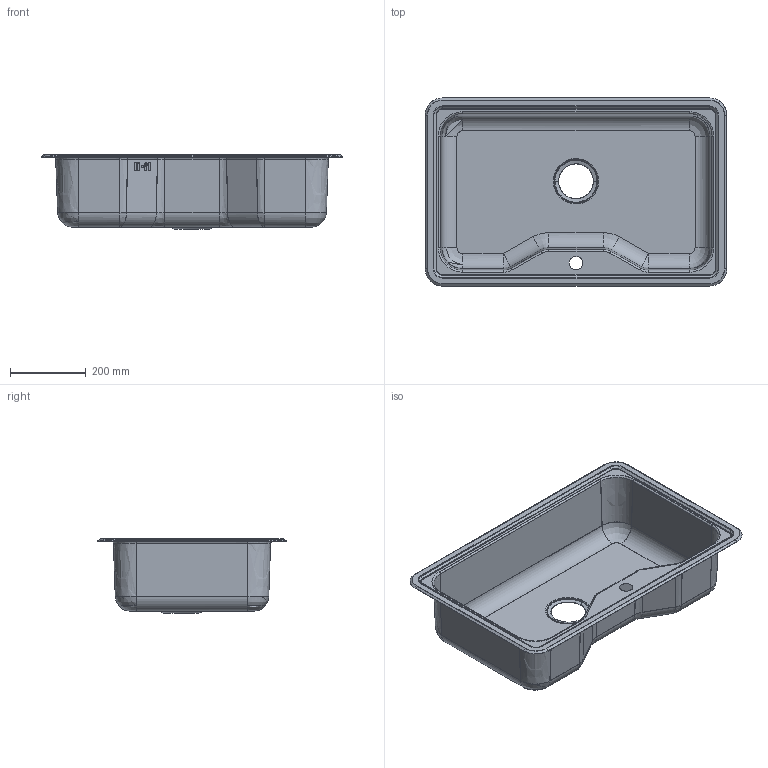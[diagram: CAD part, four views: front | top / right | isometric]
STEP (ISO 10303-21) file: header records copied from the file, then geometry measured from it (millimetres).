
FILE_DESCRIPTION((''),'1');
FILE_NAME('C:/Users/linop/Desktop/LYG800.stp','2018-09-06T14:38:04',(''),(''),'Spatial Interop R20 SP1','Kubotek KeyCreator V9.0.3 (16864)',' ');
FILE_SCHEMA(('CONFIG_CONTROL_DESIGN'));
Length unit declared in the file: millimetre
Products named in the file (1): 1
Bounding box: 797.76 x 497.76 x 195.78 mm (x, y, z)
Volume: 595601.3 mm3; surface area: 1491540.3 mm2
Topology: 1 solids, 1 shells, 256 faces, 594 edges, 334 vertices
Faces by surface type: bspline 128, cylinder 74, plane 54
Full cylindrical faces by diameter (mm): 6.5 x1, 35 x1
Entity records: 22825 total; most frequent: CARTESIAN_POINT 18085, ORIENTED_EDGE 1164, DIRECTION 583, EDGE_CURVE 582, VERTEX_POINT 334, B_SPLINE_CURVE_WITH_KNOTS 328, EDGE_LOOP 276, ADVANCED_FACE 256
